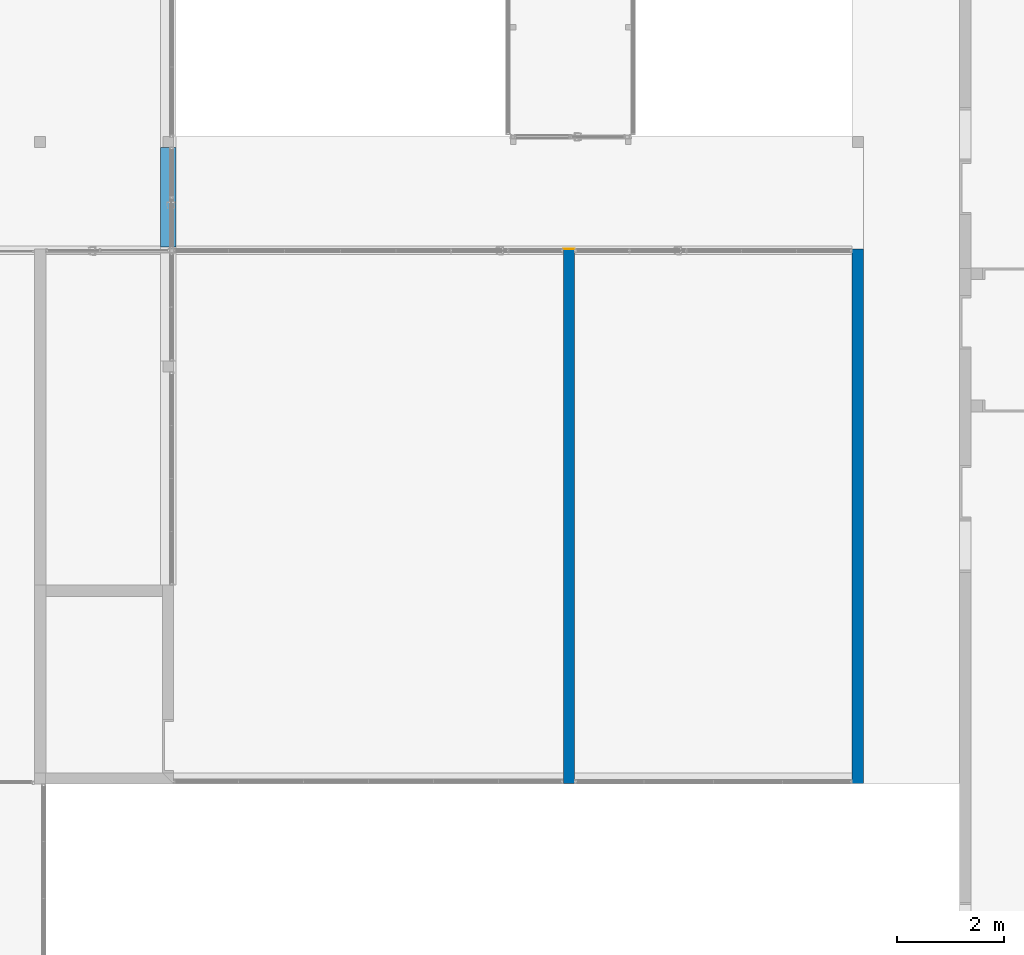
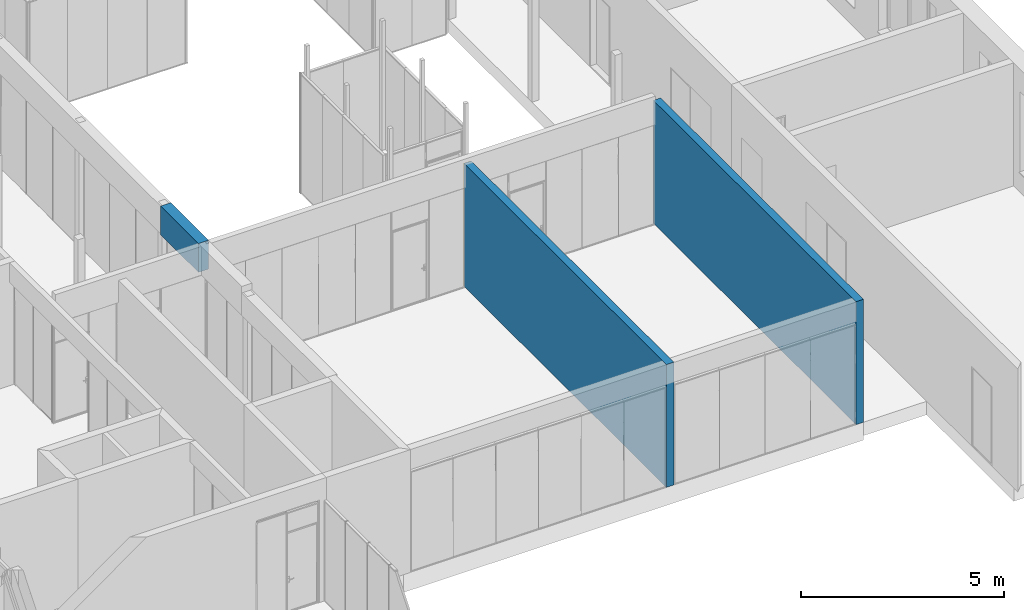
# One storey, part 29 of 387: 3 walls, 1 covering, 1 opening.
"""IFC2X3 building model written with IfcOpenShell, lengths in millimetres."""

from ifc_helpers import new_model, entity, si_unit, converted_unit, derived_unit, money_unit, direction, frame, origin_with_axes, origin_2d_with_axis, place, context, subcontext, project, spatial, polyline, rectangle, outline, extrude, faceted_brep, material, layer, layer_set, layer_usage, type_object, element, fill, save


model = new_model("IFC2X3")

# Units and contexts
model_context = context("Model", 3, precision=0.01, world=origin_with_axes(), true_north=direction((0.0, 1.0)))
body_context = subcontext(model_context, "Body", "Model", "MODEL_VIEW")
ifc_project = project(units=[si_unit("LENGTHUNIT", "METRE", prefix="MILLI"), si_unit("AREAUNIT", "SQUARE_METRE"), si_unit("VOLUMEUNIT", "CUBIC_METRE"), converted_unit("PLANEANGLEUNIT", "DEGREE", entity("IfcPlaneAngleMeasure", 0.0174532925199), si_unit("PLANEANGLEUNIT", "RADIAN"), dimensions=[0, 0, 0, 0, 0, 0, 0]), si_unit("SOLIDANGLEUNIT", "STERADIAN"), money_unit("EUR"), converted_unit("TIMEUNIT", "Year", entity("IfcTimeMeasure", 31556926.0), si_unit("TIMEUNIT", "SECOND"), dimensions=[0, 0, 1, 0, 0, 0, 0]), si_unit("MASSUNIT", "GRAM", prefix="KILO"), si_unit("THERMODYNAMICTEMPERATUREUNIT", "DEGREE_CELSIUS"), si_unit("LUMINOUSINTENSITYUNIT", "LUMEN"), si_unit("ENERGYUNIT", "JOULE", prefix="MEGA"), derived_unit("THERMALCONDUCTANCEUNIT", [(si_unit("POWERUNIT", "WATT"), 1), (si_unit("LENGTHUNIT", "METRE"), -1), (si_unit("THERMODYNAMICTEMPERATUREUNIT", "KELVIN"), -1)]), derived_unit("SPECIFICHEATCAPACITYUNIT", [(si_unit("ENERGYUNIT", "JOULE"), 1), (si_unit("MASSUNIT", "GRAM", prefix="KILO"), -1), (si_unit("THERMODYNAMICTEMPERATUREUNIT", "KELVIN"), -1)]), derived_unit("MASSDENSITYUNIT", [(si_unit("MASSUNIT", "GRAM", prefix="KILO"), 1), (si_unit("VOLUMEUNIT", "CUBIC_METRE"), -1)])], contexts=[model_context])

# Site, building, storey
site_placement = place(None, origin_with_axes())
site = spatial("IfcSite", under=ifc_project, at=site_placement, Name="Puškini 31, Narva", CompositionType="ELEMENT")
building_placement = place(site_placement, origin_with_axes())
building = spatial("IfcBuilding", under=site, at=building_placement, Name="Narva Riigigümnaasium", CompositionType="ELEMENT")
storey_placement = place(building_placement, frame((0.0, 0.0, 2640.0), z_axis=(0.0, 0.0, 1.0), x_axis=(1.0, 0.0, 0.0)))
storey = spatial("IfcBuildingStorey", under=building, at=storey_placement, Name="2.korrus +2.64", CompositionType="ELEMENT", Elevation=2640.0)

# Wall
ifc_material_1 = material(Name="Betoon element")
ifc_layer_1 = layer(ifc_material_1, 200.0, ventilated="UNKNOWN")
ifc_material_2 = material(Name="siseviimistlus-seinad")
ifc_layer_2 = layer(ifc_material_2, 10.0, ventilated="UNKNOWN")
ifc_layer_set_1 = layer_set([ifc_layer_1, ifc_layer_2], Name="G-SS-01-02")
ifc_layer_usage_1 = layer_usage(ifc_layer_set_1, "AXIS2", "POSITIVE", 0.0)
wall_type_1 = type_object("IfcWallType", Name="G-SS-01-02 210", PredefinedType="NOTDEFINED")
wall_1_placement = place(storey_placement, frame((45700.0000034, 163499.999998, 0.0), z_axis=(0.0, 0.0, 1.0), x_axis=(0.0, 1.0, 0.0)))
element("IfcWallStandardCase", 1, at=wall_1_placement, inside=storey, type_object=wall_type_1, material=ifc_layer_usage_1, Name="Sisesein", context=body_context, shape_type="SweptSolid", body=[
    extrude(outline(polyline([(0.0, 0.0), (9999.99999558, 0.0), (9999.99999558, 210.0), (0.0, 210.0), (0.0, 0.0)])), origin_with_axes(), (0.0, 0.0, 1.0), 3700.0),
])

# Wall, opening, covering
ifc_material_3 = material(Name="õõnes betoonplokk")
ifc_layer_3 = layer(ifc_material_3, 190.0, ventilated="UNKNOWN")
ifc_layer_set_2 = layer_set([ifc_layer_2, ifc_layer_3, ifc_layer_2], Name="G-SS-02")
ifc_layer_usage_2 = layer_usage(ifc_layer_set_2, "AXIS2", "POSITIVE", -10.0)
wall_type_2 = type_object("IfcWallType", Name="G-SS-02 210", PredefinedType="NOTDEFINED")
wall_2_placement = place(storey_placement, frame((40099.9999981, 173500.000001, 0.0), z_axis=(0.0, 0.0, 1.0), x_axis=(0.0, -1.0, 0.0)))
wall_2 = element("IfcWallStandardCase", 2, at=wall_2_placement, inside=storey, type_object=wall_type_2, material=ifc_layer_usage_2, Name="Sisesein", context=body_context, shape_type="SweptSolid", body=[
    extrude(outline(polyline([(0.0, -10.0), (9999.99999922, -10.0), (9999.99999922, 200.0), (0.0, 200.0), (0.0, -10.0)])), origin_with_axes(), (0.0, 0.0, 1.0), 3700.0),
])
opening_placement = place(wall_2_placement, origin_with_axes())
opening = element("IfcOpeningElement", 3, at=opening_placement, cuts=wall_2, Name="PINNADETAIL", context=body_context, shape_type="SweptSolid", body=[
    extrude(rectangle(XDim=210.0, YDim=9.99999999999, at=origin_2d_with_axis()), frame((5.0, 95.0, 0.0), z_axis=(0.0, 0.0, 1.0), x_axis=(0.0, 1.0, 0.0)), (0.0, 0.0, 1.0), 3700.0),
])
covering_type = type_object("IfcCoveringType", Name="Returned End 23", PredefinedType="NOTDEFINED")
covering_placement = place(opening_placement, frame((5.0, 0.0, 0.0), z_axis=(0.0, 0.0, 1.0), x_axis=(-1.0, 0.0, 0.0)))
covering = element("IfcCovering", 4, at=covering_placement, inside=storey, type_object=covering_type, material=ifc_material_2, Name="PINNADETAIL", PredefinedType="NOTDEFINED", context=body_context, shape_type="Brep", body=[
    faceted_brep([(5.0, 10.0, 0.0), (-5.0, 10.0, 0.0), (-5.0, 10.0, 3700.0), (5.0, 10.0, 3700.0), (5.0, -200.0, 0.0), (-5.0, -200.0, 0.0), (-5.0, -200.0, 3700.0), (5.0, -200.0, 3700.0)], [[[0, 1, 2, 3]], [[4, 5, 1, 0]], [[5, 6, 2, 1]], [[6, 7, 3, 2]], [[7, 4, 0, 3]], [[4, 7, 6, 5]]]),
])
fill(opening, covering)

# Wall
ifc_material_4 = material(Name="SKR-02_Kipsplaat")
ifc_layer_4 = layer(ifc_material_4, 12.5, ventilated="UNKNOWN")
ifc_layer_5 = layer(ifc_material_4, 12.0, ventilated="UNKNOWN")
ifc_material_5 = material(Name="SOJ-03_Soojustus - Mineraal Pehme")
ifc_layer_6 = layer(ifc_material_5, 100.0, ventilated="UNKNOWN")
ifc_material_6 = material(Name="VKR-06_Õhkvahe")
ifc_layer_7 = layer(ifc_material_6, 40.0, ventilated="UNKNOWN")
ifc_layer_set_3 = layer_set([ifc_layer_4, ifc_layer_5, ifc_layer_6, ifc_layer_7, ifc_layer_6, ifc_layer_5, ifc_layer_4], Name="G-SS-10")
ifc_layer_usage_3 = layer_usage(ifc_layer_set_3, "AXIS2", "NEGATIVE", 144.5)
wall_type_3 = type_object("IfcWallType", Name="G-SS-10 289", PredefinedType="NOTDEFINED")
wall_3_placement = place(storey_placement, frame((32700.0000014, 175400.000115, 3029.99999085), z_axis=(0.0, 0.0, 1.0), x_axis=(0.0, -1.0, 0.0)))
element("IfcWallStandardCase", 5, at=wall_3_placement, inside=storey, type_object=wall_type_3, material=ifc_layer_usage_3, Name="Sisesein", context=body_context, shape_type="SweptSolid", body=[
    extrude(outline(polyline([(0.0, -144.5), (1867.21402478, -144.5), (1867.21402478, 144.5), (0.0, 144.5), (0.0, -144.5)])), origin_with_axes(), (0.0, 0.0, 1.0), 865.000009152),
])

save(model, "model.ifc")
